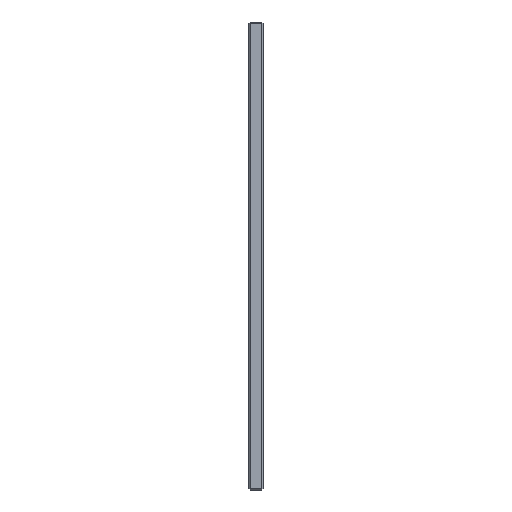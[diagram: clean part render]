
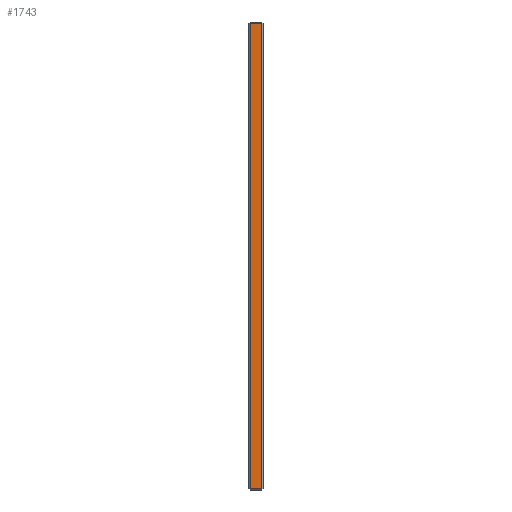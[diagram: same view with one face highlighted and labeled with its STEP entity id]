
A CAD part, left-side view. The second image highlights one B-rep face of the part: STEP entity #1743.
In plain terms, the highlighted planar face has unit normal (-1, 0, 0).
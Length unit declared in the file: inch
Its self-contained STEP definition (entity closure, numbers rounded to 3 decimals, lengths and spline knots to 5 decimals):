
#78 = EDGE_LOOP ( 'NONE', ( #782, #1029, #193, #2023 ) ) ;
#81 = VECTOR ( 'NONE', #314, 39.37008 ) ;
#193 = ORIENTED_EDGE ( 'NONE', *, *, #1310, .T. ) ;
#207 = DIRECTION ( 'NONE',  ( 0., 0., -1. ) ) ;
#236 = LINE ( 'NONE', #261, #1819 ) ;
#239 = CARTESIAN_POINT ( 'NONE',  ( -11.6875, 0.5, 7.825 ) ) ;
#261 = CARTESIAN_POINT ( 'NONE',  ( -11.6875, 0.05, -7.875 ) ) ;
#314 = DIRECTION ( 'NONE',  ( 0., -1., 0. ) ) ;
#369 = EDGE_CURVE ( 'NONE', #945, #720, #871, .T. ) ;
#381 = CARTESIAN_POINT ( 'NONE',  ( -11.6875, 0.45, -7.875 ) ) ;
#494 = VECTOR ( 'NONE', #1983, 39.37008 ) ;
#508 = AXIS2_PLACEMENT_3D ( 'NONE', #1815, #1829, #1212 ) ;
#548 = CARTESIAN_POINT ( 'NONE',  ( -11.6875, 0.05, 7.825 ) ) ;
#628 = CARTESIAN_POINT ( 'NONE',  ( -11.6875, 0.45, -7.825 ) ) ;
#720 = VERTEX_POINT ( 'NONE', #725 ) ;
#725 = CARTESIAN_POINT ( 'NONE',  ( -11.6875, 0.05, -7.825 ) ) ;
#729 = EDGE_CURVE ( 'NONE', #857, #945, #1706, .T. ) ;
#734 = VERTEX_POINT ( 'NONE', #548 ) ;
#782 = ORIENTED_EDGE ( 'NONE', *, *, #729, .T. ) ;
#823 = VECTOR ( 'NONE', #207, 39.37008 ) ;
#857 = VERTEX_POINT ( 'NONE', #1666 ) ;
#871 = LINE ( 'NONE', #1898, #81 ) ;
#889 = EDGE_CURVE ( 'NONE', #734, #857, #1744, .T. ) ;
#906 = FACE_OUTER_BOUND ( 'NONE', #78, .T. ) ;
#945 = VERTEX_POINT ( 'NONE', #628 ) ;
#1029 = ORIENTED_EDGE ( 'NONE', *, *, #369, .T. ) ;
#1212 = DIRECTION ( 'NONE',  ( 0., 0., -1. ) ) ;
#1310 = EDGE_CURVE ( 'NONE', #720, #734, #236, .T. ) ;
#1666 = CARTESIAN_POINT ( 'NONE',  ( -11.6875, 0.45, 7.825 ) ) ;
#1706 = LINE ( 'NONE', #381, #823 ) ;
#1743 = ADVANCED_FACE ( 'Placement Plane', ( #906 ), #1806, .F. ) ;
#1744 = LINE ( 'NONE', #239, #494 ) ;
#1806 = PLANE ( 'NONE',  #508 ) ;
#1815 = CARTESIAN_POINT ( 'NONE',  ( -11.6875, 0.5, -7.875 ) ) ;
#1819 = VECTOR ( 'NONE', #1995, 39.37008 ) ;
#1829 = DIRECTION ( 'NONE',  ( 1., 0., 0. ) ) ;
#1898 = CARTESIAN_POINT ( 'NONE',  ( -11.6875, 0.5, -7.825 ) ) ;
#1983 = DIRECTION ( 'NONE',  ( 0., 1., 0. ) ) ;
#1995 = DIRECTION ( 'NONE',  ( 0., 0., 1. ) ) ;
#2023 = ORIENTED_EDGE ( 'NONE', *, *, #889, .T. ) ;
